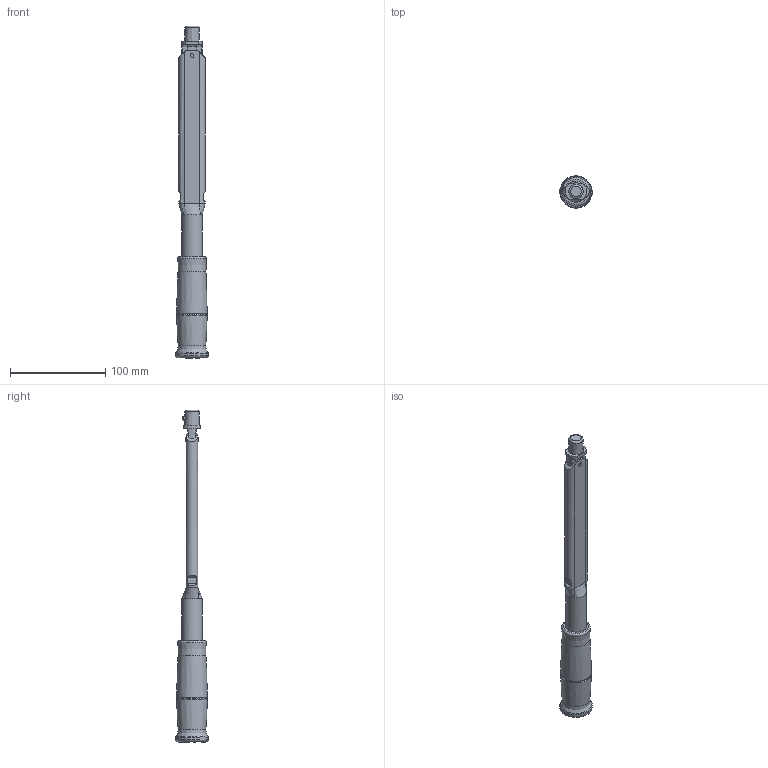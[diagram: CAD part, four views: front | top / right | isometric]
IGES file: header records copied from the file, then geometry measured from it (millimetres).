
Global section: file name: BCSP120NX15D_Shrinkwrap_1; native system: Autodesk Inventor 2018; preprocessor: unknown; author: Q618; date: 20180621.162040; units: millimetre
Bounding box: 34 x 33.99 x 348.5 mm (x, y, z)
Volume: 153753.9 mm3; surface area: 28704 mm2
Topology: 1 solids, 1 shells, 96 faces, 254 edges, 171 vertices
Faces by surface type: bspline 96
